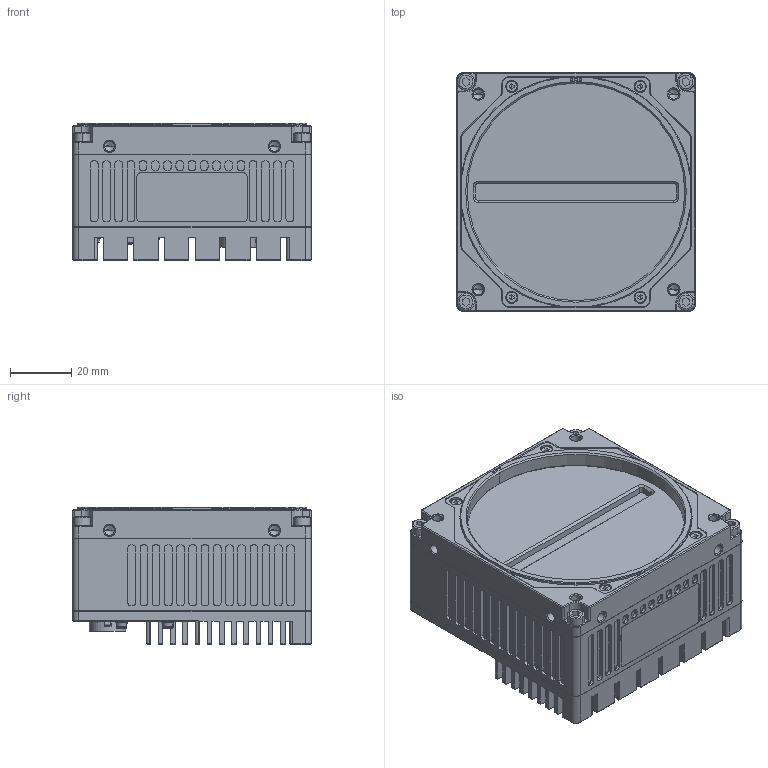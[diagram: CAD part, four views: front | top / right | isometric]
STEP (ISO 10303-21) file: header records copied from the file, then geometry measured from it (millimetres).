
FILE_DESCRIPTION((''),'2;1');
FILE_NAME('SW-8001M-MCL-M72_MOCK_20250924_ASM','2025-09-24T16:25:20',('aso'),(''),'CREO PARAMETRIC BY PTC INC, 2024133','CREO PARAMETRIC BY PTC INC, 2024133','');
FILE_SCHEMA(('AUTOMOTIVE_DESIGN { 1 0 10303 214 1 1 1 1 }'));
Products named in the file (3): SW-8001M-MCL-M72_MOCK_1_1; SW-8001M-MCL-M72_MOCK_1_ASM; SW-8001M-MCL-M72_MOCK_20250924_ASM
Assembly tree (2 placements, depth 3):
  SW-8001M-MCL-M72_MOCK_20250924_ASM
    SW-8001M-MCL-M72_MOCK_1_ASM
      SW-8001M-MCL-M72_MOCK_1_1
Bounding box: 78 x 78 x 44.93 mm (x, y, z)
Volume: 204285 mm3; surface area: 51577.1 mm2
Topology: 1 solids, 18 shells, 2916 faces, 8032 edges, 5220 vertices
Faces by surface type: plane 1915, cylinder 773, cone 178, sphere 26, bspline 16, torus 8
Entity records: 113888 total; most frequent: CARTESIAN_POINT 17510, ORIENTED_EDGE 15882, DIRECTION 15595, EDGE_CURVE 7966, VECTOR 5675, LINE 5675, VERTEX_POINT 5220, AXIS2_PLACEMENT_3D 4960
